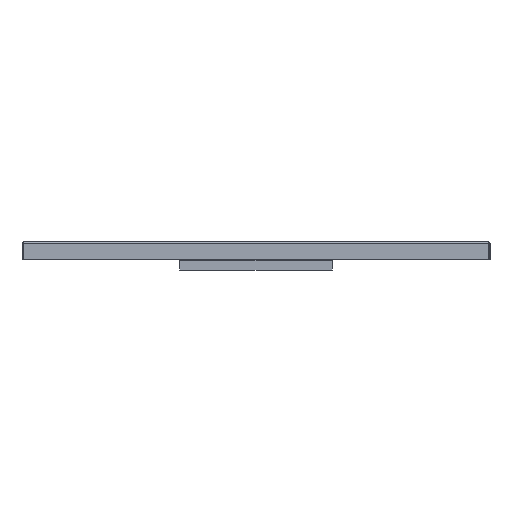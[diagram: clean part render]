
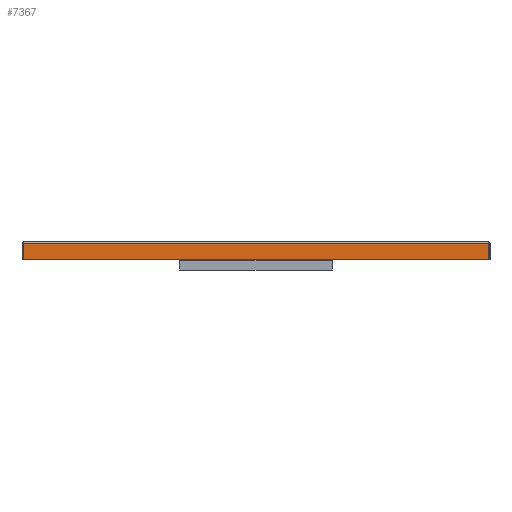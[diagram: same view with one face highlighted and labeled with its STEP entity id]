
A CAD part, left-side view. The second image highlights one B-rep face of the part: STEP entity #7367.
In plain terms, the highlighted planar face has unit normal (-1, 0, 0).
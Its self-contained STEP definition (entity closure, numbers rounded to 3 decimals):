
#20 = CARTESIAN_POINT ( 'NONE',  ( -84.056, 90.93, -2.005 ) ) ;
#480 = CARTESIAN_POINT ( 'NONE',  ( -84.056, 90.93, -2.005 ) ) ;
#889 = EDGE_CURVE ( 'NONE', #1764, #4811, #5184, .T. ) ;
#920 = VERTEX_POINT ( 'NONE', #11782 ) ;
#1022 = VECTOR ( 'NONE', #2494, 1000. ) ;
#1039 = DIRECTION ( 'NONE',  ( 0., 0., -1. ) ) ;
#1319 = CARTESIAN_POINT ( 'NONE',  ( -84.056, 574.134, -2.073 ) ) ;
#1380 = CARTESIAN_POINT ( 'NONE',  ( -84.056, 638.316, -2.074 ) ) ;
#1443 = CARTESIAN_POINT ( 'NONE',  ( -84.056, 751.398, -2.078 ) ) ;
#1557 = CARTESIAN_POINT ( 'NONE',  ( -84.056, 240.158, -2.077 ) ) ;
#1764 = VERTEX_POINT ( 'NONE', #8984 ) ;
#1884 = VERTEX_POINT ( 'NONE', #9536 ) ;
#2005 = EDGE_CURVE ( 'NONE', #1884, #920, #2817, .T. ) ;
#2170 = EDGE_CURVE ( 'NONE', #4811, #1884, #11122, .T. ) ;
#2365 = CARTESIAN_POINT ( 'NONE',  ( -84.056, 178.473, -2.084 ) ) ;
#2494 = DIRECTION ( 'NONE',  ( 0., 0., 1. ) ) ;
#2561 = FACE_OUTER_BOUND ( 'NONE', #9455, .T. ) ;
#2793 = DIRECTION ( 'NONE',  ( 1., 0., 0. ) ) ;
#2817 = LINE ( 'NONE', #5807, #4723 ) ;
#3065 = LINE ( 'NONE', #9416, #1022 ) ;
#3222 = CARTESIAN_POINT ( 'NONE',  ( -84.056, 711.667, -2.076 ) ) ;
#3401 = CARTESIAN_POINT ( 'NONE',  ( -84.056, 483.845, -2.073 ) ) ;
#4070 = CARTESIAN_POINT ( 'NONE',  ( -84.056, 825.258, -2.09 ) ) ;
#4100 = ORIENTED_EDGE ( 'NONE', *, *, #2005, .F. ) ;
#4313 = CARTESIAN_POINT ( 'NONE',  ( -84.056, 684.16, -2.075 ) ) ;
#4723 = VECTOR ( 'NONE', #7633, 1000. ) ;
#4811 = VERTEX_POINT ( 'NONE', #11961 ) ;
#5112 = CARTESIAN_POINT ( 'NONE',  ( -84.056, 103.526, -2.028 ) ) ;
#5184 = B_SPLINE_CURVE_WITH_KNOTS ( 'NONE', 3,
 ( #9753, #6882, #10730, #9932, #5233, #4070, #10603, #1443, #3222, #4313, #1380, #1319, #3401, #7987, #8840, #1557, #7796, #2365, #8046, #9689, #8900, #5112, #8715, #480 ),
 .UNSPECIFIED., .F., .F.,
 ( 4, 1, 1, 1, 1, 1, 1, 1, 1, 1, 1, 1, 1, 1, 1, 1, 1, 1, 1, 1, 1, 4 ),
 ( 2., 12.225, 24.45, 42.788, 62.654, 85.576, 149.757, 177.264, 204.77, 232.277, 314.796, 397.316, 503.146, 608.976, 656.732, 680.61, 716.427, 734.335, 752.244, 770.153, 788.061, 798. ),
 .UNSPECIFIED. ) ;
#5233 = CARTESIAN_POINT ( 'NONE',  ( -84.056, 845.633, -2.082 ) ) ;
#5807 = CARTESIAN_POINT ( 'NONE',  ( -84.056, 90.93, -30. ) ) ;
#5896 = VECTOR ( 'NONE', #1039, 1000. ) ;
#6281 = DIRECTION ( 'NONE',  ( 0., 1., 0. ) ) ;
#6882 = CARTESIAN_POINT ( 'NONE',  ( -84.056, 883.522, -2.012 ) ) ;
#7367 = ADVANCED_FACE ( 'NONE', ( #2561 ), #9265, .F. ) ;
#7633 = DIRECTION ( 'NONE',  ( 0., 1., 0. ) ) ;
#7796 = CARTESIAN_POINT ( 'NONE',  ( -84.056, 204.341, -2.08 ) ) ;
#7987 = CARTESIAN_POINT ( 'NONE',  ( -84.056, 385.785, -2.073 ) ) ;
#8046 = CARTESIAN_POINT ( 'NONE',  ( -84.056, 154.595, -2.089 ) ) ;
#8431 = AXIS2_PLACEMENT_3D ( 'NONE', #12089, #2793, #6281 ) ;
#8510 = EDGE_CURVE ( 'NONE', #920, #1764, #3065, .T. ) ;
#8715 = CARTESIAN_POINT ( 'NONE',  ( -84.056, 94.243, -2.012 ) ) ;
#8840 = CARTESIAN_POINT ( 'NONE',  ( -84.056, 299.313, -2.074 ) ) ;
#8900 = CARTESIAN_POINT ( 'NONE',  ( -84.056, 118.778, -2.062 ) ) ;
#8984 = CARTESIAN_POINT ( 'NONE',  ( -84.056, 886.93, -2.005 ) ) ;
#8998 = ORIENTED_EDGE ( 'NONE', *, *, #8510, .F. ) ;
#9265 = PLANE ( 'NONE',  #8431 ) ;
#9416 = CARTESIAN_POINT ( 'NONE',  ( -84.056, 886.93, -30. ) ) ;
#9455 = EDGE_LOOP ( 'NONE', ( #9900, #11226, #8998, #4100 ) ) ;
#9536 = CARTESIAN_POINT ( 'NONE',  ( -84.056, 90.93, -30. ) ) ;
#9689 = CARTESIAN_POINT ( 'NONE',  ( -84.056, 136.687, -2.085 ) ) ;
#9753 = CARTESIAN_POINT ( 'NONE',  ( -84.056, 886.93, -2.005 ) ) ;
#9900 = ORIENTED_EDGE ( 'NONE', *, *, #2170, .F. ) ;
#9932 = CARTESIAN_POINT ( 'NONE',  ( -84.056, 862.443, -2.054 ) ) ;
#10603 = CARTESIAN_POINT ( 'NONE',  ( -84.056, 789.602, -2.082 ) ) ;
#10730 = CARTESIAN_POINT ( 'NONE',  ( -84.056, 876.039, -2.025 ) ) ;
#11122 = LINE ( 'NONE', #20, #5896 ) ;
#11226 = ORIENTED_EDGE ( 'NONE', *, *, #889, .F. ) ;
#11782 = CARTESIAN_POINT ( 'NONE',  ( -84.056, 886.93, -30. ) ) ;
#11961 = CARTESIAN_POINT ( 'NONE',  ( -84.056, 90.93, -2.005 ) ) ;
#12089 = CARTESIAN_POINT ( 'NONE',  ( -84.056, 888.93, 0. ) ) ;
